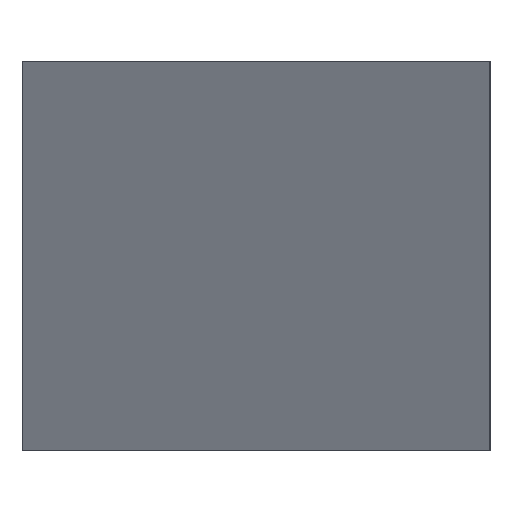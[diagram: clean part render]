
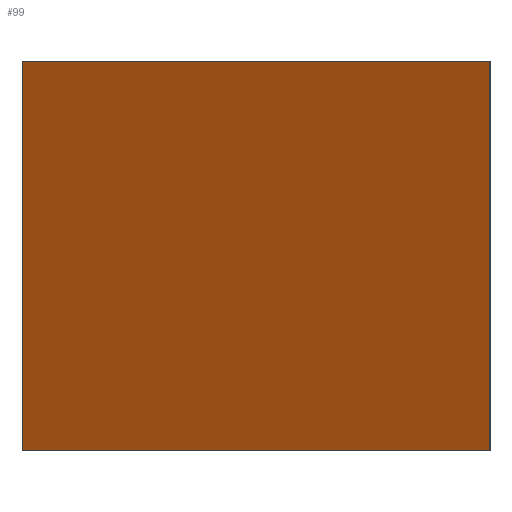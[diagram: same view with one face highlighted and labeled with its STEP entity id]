
A CAD part, left-side view. The second image highlights one B-rep face of the part: STEP entity #99.
In plain terms, the highlighted planar face has unit normal (-0.832, 0.555, 0).
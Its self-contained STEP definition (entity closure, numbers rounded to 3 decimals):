
#99 = ADVANCED_FACE( '', ( #154 ), #155, .T. );
#154 = FACE_OUTER_BOUND( '', #212, .T. );
#155 = PLANE( '', #213 );
#212 = EDGE_LOOP( '', ( #408, #409, #410, #411 ) );
#213 = AXIS2_PLACEMENT_3D( '', #412, #413, #414 );
#408 = ORIENTED_EDGE( '', *, *, #503, .T. );
#409 = ORIENTED_EDGE( '', *, *, #504, .F. );
#410 = ORIENTED_EDGE( '', *, *, #505, .F. );
#411 = ORIENTED_EDGE( '', *, *, #501, .T. );
#412 = CARTESIAN_POINT( '', ( -5., 0., 12.5 ) );
#413 = DIRECTION( '', ( -0.832, 0.555, 0. ) );
#414 = DIRECTION( '', ( 0.555, 0.832, 0. ) );
#501 = EDGE_CURVE( '', #610, #608, #611, .T. );
#503 = EDGE_CURVE( '', #608, #613, #614, .T. );
#504 = EDGE_CURVE( '', #615, #613, #616, .T. );
#505 = EDGE_CURVE( '', #610, #615, #617, .T. );
#608 = VERTEX_POINT( '', #772 );
#610 = VERTEX_POINT( '', #775 );
#611 = LINE( '', #776, #777 );
#613 = VERTEX_POINT( '', #780 );
#614 = LINE( '', #781, #782 );
#615 = VERTEX_POINT( '', #783 );
#616 = LINE( '', #784, #785 );
#617 = LINE( '', #786, #787 );
#772 = CARTESIAN_POINT( '', ( -5., 0., -12.5 ) );
#775 = CARTESIAN_POINT( '', ( -5., 0., 12.5 ) );
#776 = CARTESIAN_POINT( '', ( -5., 0., 12.5 ) );
#777 = VECTOR( '', #869, 1. );
#780 = CARTESIAN_POINT( '', ( -25., -30., -12.5 ) );
#781 = CARTESIAN_POINT( '', ( -5., 0., -12.5 ) );
#782 = VECTOR( '', #871, 1. );
#783 = CARTESIAN_POINT( '', ( -25., -30., 12.5 ) );
#784 = CARTESIAN_POINT( '', ( -25., -30., 12.5 ) );
#785 = VECTOR( '', #872, 1. );
#786 = CARTESIAN_POINT( '', ( -5., 0., 12.5 ) );
#787 = VECTOR( '', #873, 1. );
#869 = DIRECTION( '', ( 0., 0., -1. ) );
#871 = DIRECTION( '', ( -0.555, -0.832, 0. ) );
#872 = DIRECTION( '', ( 0., 0., -1. ) );
#873 = DIRECTION( '', ( -0.555, -0.832, 0. ) );
